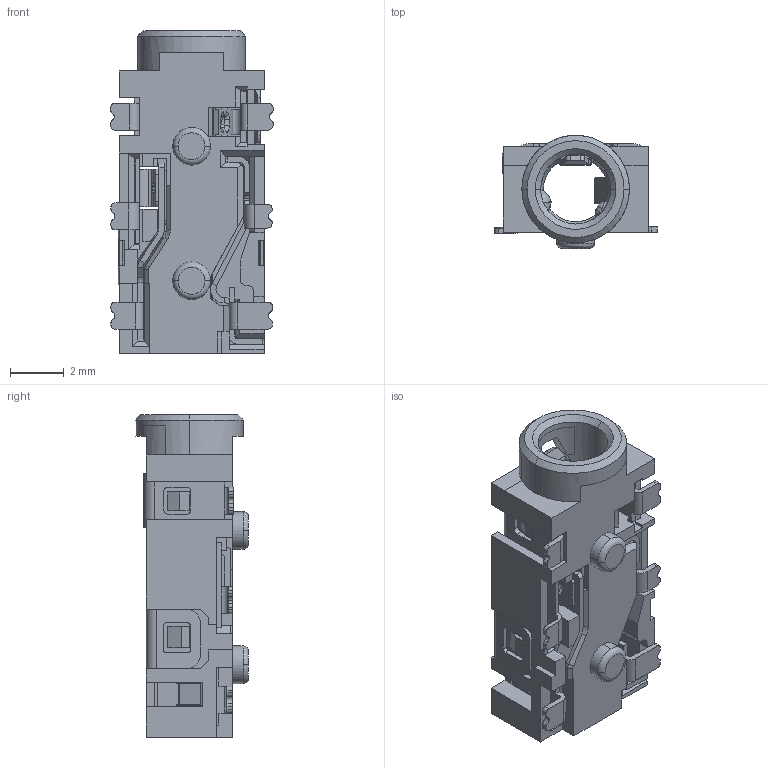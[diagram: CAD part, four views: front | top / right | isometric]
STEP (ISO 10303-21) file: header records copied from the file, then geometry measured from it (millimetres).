
FILE_DESCRIPTION((''),'2;1');
FILE_NAME('PHONEJACK-JAR02062101-UNCONN_PRT','2008-06-30T',('GRA'),(''),'PRO/ENGINEER BY PARAMETRIC TECHNOLOGY CORPORATION, 2006170','PRO/ENGINEER BY PARAMETRIC TECHNOLOGY CORPORATION, 2006170','');
FILE_SCHEMA(('CONFIG_CONTROL_DESIGN'));
Length unit declared in the file: millimetre
Products named in the file (1): PHONEJACK-JAR02062101-UNCONN_PRT
Bounding box: 6.03 x 4.2 x 12 mm (x, y, z)
Surface area: 543.2 mm2
Topology: 1 solids, 3 shells, 889 faces, 2663 edges, 1742 vertices
Faces by surface type: plane 525, cylinder 250, bspline 43, torus 32, sphere 30, cone 9
Entity records: 33194 total; most frequent: CARTESIAN_POINT 9307, ORIENTED_EDGE 5292, DIRECTION 4668, EDGE_CURVE 2659, VECTOR 1756, LINE 1756, VERTEX_POINT 1742, AXIS2_PLACEMENT_3D 1456
